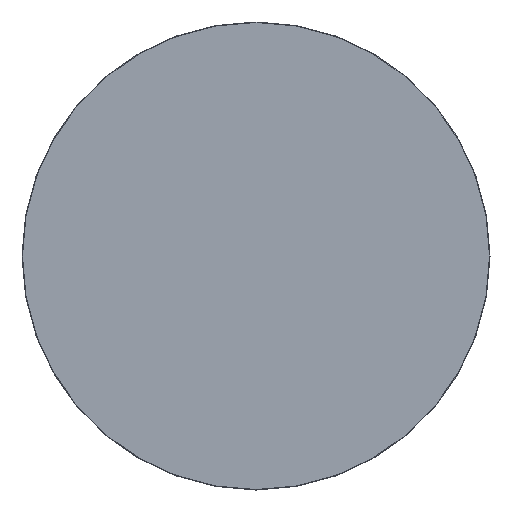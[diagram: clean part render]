
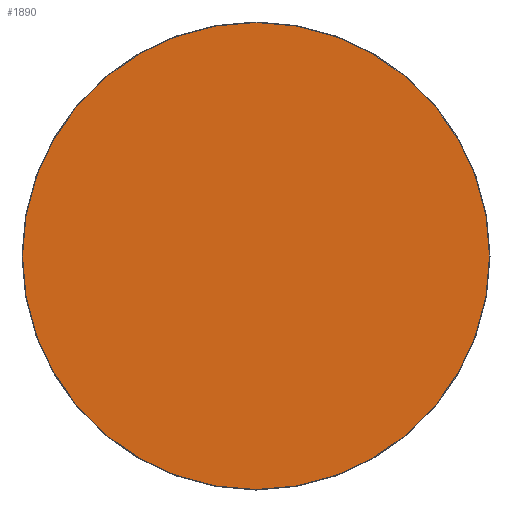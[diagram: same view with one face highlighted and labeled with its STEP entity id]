
A CAD part, left-side view. The second image highlights one B-rep face of the part: STEP entity #1890.
In plain terms, the highlighted planar face has unit normal (-1, 0, 0).
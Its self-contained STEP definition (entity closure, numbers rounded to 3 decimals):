
#205 = DIRECTION ( 'NONE',  ( -1., 0., 0. ) ) ;
#367 = CARTESIAN_POINT ( 'NONE',  ( 0., 0., 0. ) ) ;
#415 = EDGE_CURVE ( 'NONE', #1769, #1522, #1209, .T. ) ;
#445 = CARTESIAN_POINT ( 'NONE',  ( 0., 0., 0. ) ) ;
#594 = DIRECTION ( 'NONE',  ( 0., 0., 1. ) ) ;
#650 = EDGE_CURVE ( 'NONE', #1522, #1769, #1002, .T. ) ;
#742 = CARTESIAN_POINT ( 'NONE',  ( 0., 0., -149.7 ) ) ;
#760 = DIRECTION ( 'NONE',  ( 0., 0., -1. ) ) ;
#857 = AXIS2_PLACEMENT_3D ( 'NONE', #1894, #1275, #760 ) ;
#981 = DIRECTION ( 'NONE',  ( 0., 0., 1. ) ) ;
#1002 = CIRCLE ( 'NONE', #1581, 149.7 ) ;
#1209 = CIRCLE ( 'NONE', #1689, 149.7 ) ;
#1260 = FACE_OUTER_BOUND ( 'NONE', #1497, .T. ) ;
#1275 = DIRECTION ( 'NONE',  ( 1., 0., 0. ) ) ;
#1280 = CARTESIAN_POINT ( 'NONE',  ( 0., 0., 149.7 ) ) ;
#1284 = PLANE ( 'NONE',  #857 ) ;
#1430 = DIRECTION ( 'NONE',  ( -1., 0., 0. ) ) ;
#1497 = EDGE_LOOP ( 'NONE', ( #1743, #1672 ) ) ;
#1522 = VERTEX_POINT ( 'NONE', #1280 ) ;
#1581 = AXIS2_PLACEMENT_3D ( 'NONE', #367, #205, #981 ) ;
#1672 = ORIENTED_EDGE ( 'NONE', *, *, #650, .T. ) ;
#1689 = AXIS2_PLACEMENT_3D ( 'NONE', #445, #1430, #594 ) ;
#1743 = ORIENTED_EDGE ( 'NONE', *, *, #415, .T. ) ;
#1769 = VERTEX_POINT ( 'NONE', #742 ) ;
#1890 = ADVANCED_FACE ( 'NONE', ( #1260 ), #1284, .F. ) ;
#1894 = CARTESIAN_POINT ( 'NONE',  ( 0., 0., 0. ) ) ;
